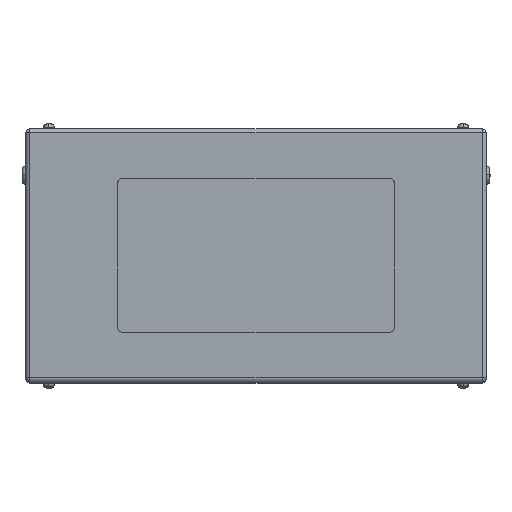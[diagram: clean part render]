
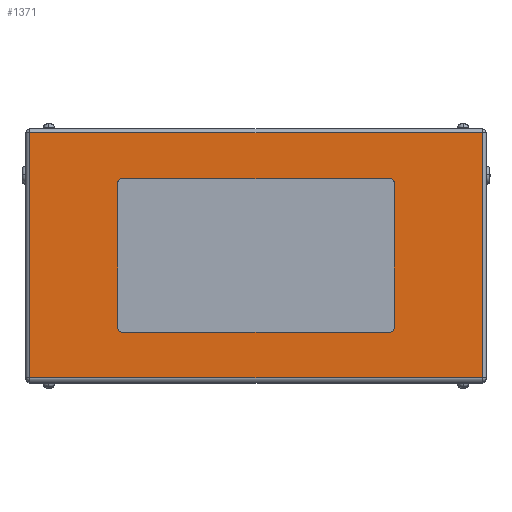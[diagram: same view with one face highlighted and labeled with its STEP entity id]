
A CAD part, top view. The second image highlights one B-rep face of the part: STEP entity #1371.
In plain terms, the highlighted planar face has unit normal (0, 0, 1).
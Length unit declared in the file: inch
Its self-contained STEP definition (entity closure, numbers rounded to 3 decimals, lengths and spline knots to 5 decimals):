
#279 = CARTESIAN_POINT ( 'NONE',  ( 14.734, 7.984, 21. ) ) ;
#292 = DIRECTION ( 'NONE',  ( 0., 0., 1. ) ) ;
#366 = DIRECTION ( 'NONE',  ( 1., 0., 0. ) ) ;
#519 = CARTESIAN_POINT ( 'NONE',  ( 14.734, -7.984, 21. ) ) ;
#611 = DIRECTION ( 'NONE',  ( 0., 0., 1. ) ) ;
#882 = ORIENTED_EDGE ( 'NONE', *, *, #14589, .F. ) ;
#904 = VECTOR ( 'NONE', #18458, 39.37008 ) ;
#1371 = ADVANCED_FACE ( 'NONE', ( #15079, #10193 ), #13089, .F. ) ;
#2028 = EDGE_CURVE ( 'NONE', #21994, #18460, #22126, .T. ) ;
#2102 = DIRECTION ( 'NONE',  ( -1., 0., 0. ) ) ;
#2267 = VERTEX_POINT ( 'NONE', #279 ) ;
#2996 = CARTESIAN_POINT ( 'NONE',  ( -8.75, -5., 21. ) ) ;
#3070 = ORIENTED_EDGE ( 'NONE', *, *, #13701, .F. ) ;
#3185 = ORIENTED_EDGE ( 'NONE', *, *, #4019, .F. ) ;
#3333 = CARTESIAN_POINT ( 'NONE',  ( 9., 4.75, 21. ) ) ;
#3404 = EDGE_CURVE ( 'NONE', #2267, #23591, #22401, .T. ) ;
#3412 = CARTESIAN_POINT ( 'NONE',  ( 15., 7.984, 21. ) ) ;
#3947 = ORIENTED_EDGE ( 'NONE', *, *, #20114, .T. ) ;
#3983 = VECTOR ( 'NONE', #20002, 39.37008 ) ;
#4019 = EDGE_CURVE ( 'NONE', #18460, #7754, #4944, .T. ) ;
#4173 = VECTOR ( 'NONE', #10505, 39.37008 ) ;
#4489 = ORIENTED_EDGE ( 'NONE', *, *, #2028, .F. ) ;
#4589 = CARTESIAN_POINT ( 'NONE',  ( -8.75, 4.75, 21. ) ) ;
#4840 = VERTEX_POINT ( 'NONE', #519 ) ;
#4944 = CIRCLE ( 'NONE', #17728, 0.25 ) ;
#5135 = DIRECTION ( 'NONE',  ( 0., 1., 0. ) ) ;
#5757 = AXIS2_PLACEMENT_3D ( 'NONE', #16913, #15232, #18946 ) ;
#5759 = EDGE_LOOP ( 'NONE', ( #4489, #23682, #17481, #23203, #3070, #7691, #882, #3185 ) ) ;
#5831 = EDGE_CURVE ( 'NONE', #21594, #11367, #16257, .T. ) ;
#6082 = DIRECTION ( 'NONE',  ( 0., 0., 1. ) ) ;
#6157 = DIRECTION ( 'NONE',  ( 1., 0., 0. ) ) ;
#6552 = EDGE_CURVE ( 'NONE', #6741, #4840, #10231, .T. ) ;
#6684 = LINE ( 'NONE', #15738, #13660 ) ;
#6741 = VERTEX_POINT ( 'NONE', #20105 ) ;
#7001 = EDGE_CURVE ( 'NONE', #4840, #2267, #13401, .T. ) ;
#7099 = VECTOR ( 'NONE', #13956, 39.37008 ) ;
#7197 = AXIS2_PLACEMENT_3D ( 'NONE', #4589, #17179, #6157 ) ;
#7452 = LINE ( 'NONE', #13002, #10107 ) ;
#7681 = VERTEX_POINT ( 'NONE', #10875 ) ;
#7691 = ORIENTED_EDGE ( 'NONE', *, *, #5831, .F. ) ;
#7754 = VERTEX_POINT ( 'NONE', #14896 ) ;
#7867 = CARTESIAN_POINT ( 'NONE',  ( -8.75, -4.75, 21. ) ) ;
#8089 = EDGE_CURVE ( 'NONE', #12900, #23461, #6684, .T. ) ;
#9043 = CARTESIAN_POINT ( 'NONE',  ( -9., 4.75, 21. ) ) ;
#9268 = CARTESIAN_POINT ( 'NONE',  ( 8.75, 4.75, 21. ) ) ;
#10107 = VECTOR ( 'NONE', #22227, 39.37008 ) ;
#10193 = FACE_OUTER_BOUND ( 'NONE', #21962, .T. ) ;
#10231 = LINE ( 'NONE', #19616, #4173 ) ;
#10505 = DIRECTION ( 'NONE',  ( 1., 0., 0. ) ) ;
#10875 = CARTESIAN_POINT ( 'NONE',  ( -8.75, 5., 21. ) ) ;
#11367 = VERTEX_POINT ( 'NONE', #21984 ) ;
#11427 = LINE ( 'NONE', #23377, #17438 ) ;
#11534 = EDGE_CURVE ( 'NONE', #23461, #21994, #15881, .T. ) ;
#11767 = DIRECTION ( 'NONE',  ( 1., 0., 0. ) ) ;
#12198 = CIRCLE ( 'NONE', #7197, 0.25 ) ;
#12900 = VERTEX_POINT ( 'NONE', #9043 ) ;
#13002 = CARTESIAN_POINT ( 'NONE',  ( -8.75, 5., 21. ) ) ;
#13089 = PLANE ( 'NONE',  #5757 ) ;
#13349 = CARTESIAN_POINT ( 'NONE',  ( -14.734, 7.984, 21. ) ) ;
#13401 = LINE ( 'NONE', #13972, #14787 ) ;
#13660 = VECTOR ( 'NONE', #21295, 39.37008 ) ;
#13701 = EDGE_CURVE ( 'NONE', #11367, #7681, #7452, .T. ) ;
#13871 = LINE ( 'NONE', #19117, #904 ) ;
#13956 = DIRECTION ( 'NONE',  ( 1., 0., 0. ) ) ;
#13972 = CARTESIAN_POINT ( 'NONE',  ( 14.734, 8.25, 21. ) ) ;
#14408 = AXIS2_PLACEMENT_3D ( 'NONE', #9268, #292, #2102 ) ;
#14589 = EDGE_CURVE ( 'NONE', #7754, #21594, #11427, .T. ) ;
#14787 = VECTOR ( 'NONE', #15625, 39.37008 ) ;
#14896 = CARTESIAN_POINT ( 'NONE',  ( 9., -4.75, 21. ) ) ;
#15079 = FACE_BOUND ( 'NONE', #5759, .T. ) ;
#15232 = DIRECTION ( 'NONE',  ( 0., 0., -1. ) ) ;
#15625 = DIRECTION ( 'NONE',  ( 0., 1., 0. ) ) ;
#15738 = CARTESIAN_POINT ( 'NONE',  ( -9., 4.75, 21. ) ) ;
#15881 = CIRCLE ( 'NONE', #20468, 0.25 ) ;
#16257 = CIRCLE ( 'NONE', #14408, 0.25 ) ;
#16913 = CARTESIAN_POINT ( 'NONE',  ( 15., 8.25, 21. ) ) ;
#17023 = CARTESIAN_POINT ( 'NONE',  ( 8.75, -4.75, 21. ) ) ;
#17179 = DIRECTION ( 'NONE',  ( 0., 0., 1. ) ) ;
#17438 = VECTOR ( 'NONE', #5135, 39.37008 ) ;
#17481 = ORIENTED_EDGE ( 'NONE', *, *, #8089, .F. ) ;
#17728 = AXIS2_PLACEMENT_3D ( 'NONE', #17023, #6082, #366 ) ;
#18458 = DIRECTION ( 'NONE',  ( 0., -1., 0. ) ) ;
#18460 = VERTEX_POINT ( 'NONE', #21955 ) ;
#18688 = EDGE_CURVE ( 'NONE', #7681, #12900, #12198, .T. ) ;
#18828 = ORIENTED_EDGE ( 'NONE', *, *, #6552, .T. ) ;
#18946 = DIRECTION ( 'NONE',  ( -1., 0., 0. ) ) ;
#19117 = CARTESIAN_POINT ( 'NONE',  ( -14.734, 8.25, 21. ) ) ;
#19130 = ORIENTED_EDGE ( 'NONE', *, *, #3404, .T. ) ;
#19616 = CARTESIAN_POINT ( 'NONE',  ( 14.734, -7.984, 21. ) ) ;
#20002 = DIRECTION ( 'NONE',  ( -1., 0., 0. ) ) ;
#20105 = CARTESIAN_POINT ( 'NONE',  ( -14.734, -7.984, 21. ) ) ;
#20114 = EDGE_CURVE ( 'NONE', #23591, #6741, #13871, .T. ) ;
#20468 = AXIS2_PLACEMENT_3D ( 'NONE', #7867, #611, #11767 ) ;
#21295 = DIRECTION ( 'NONE',  ( 0., -1., 0. ) ) ;
#21594 = VERTEX_POINT ( 'NONE', #3333 ) ;
#21943 = CARTESIAN_POINT ( 'NONE',  ( -9., -4.75, 21. ) ) ;
#21955 = CARTESIAN_POINT ( 'NONE',  ( 8.75, -5., 21. ) ) ;
#21962 = EDGE_LOOP ( 'NONE', ( #3947, #18828, #22004, #19130 ) ) ;
#21984 = CARTESIAN_POINT ( 'NONE',  ( 8.75, 5., 21. ) ) ;
#21994 = VERTEX_POINT ( 'NONE', #22413 ) ;
#22004 = ORIENTED_EDGE ( 'NONE', *, *, #7001, .T. ) ;
#22126 = LINE ( 'NONE', #2996, #7099 ) ;
#22227 = DIRECTION ( 'NONE',  ( -1., 0., 0. ) ) ;
#22401 = LINE ( 'NONE', #3412, #3983 ) ;
#22413 = CARTESIAN_POINT ( 'NONE',  ( -8.75, -5., 21. ) ) ;
#23203 = ORIENTED_EDGE ( 'NONE', *, *, #18688, .F. ) ;
#23377 = CARTESIAN_POINT ( 'NONE',  ( 9., 4.75, 21. ) ) ;
#23461 = VERTEX_POINT ( 'NONE', #21943 ) ;
#23591 = VERTEX_POINT ( 'NONE', #13349 ) ;
#23682 = ORIENTED_EDGE ( 'NONE', *, *, #11534, .F. ) ;
